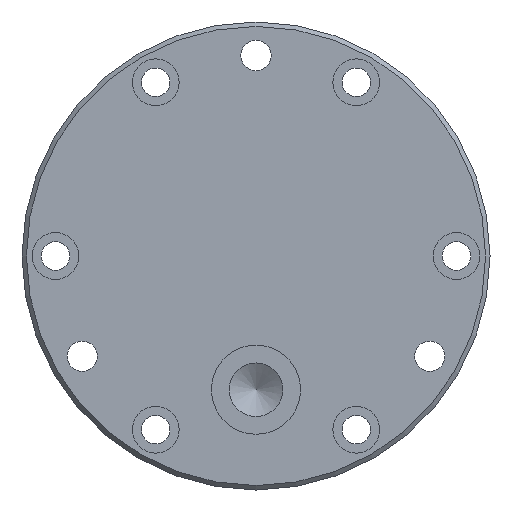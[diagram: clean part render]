
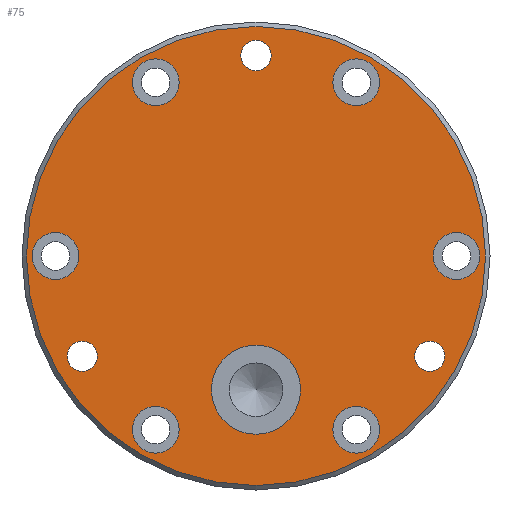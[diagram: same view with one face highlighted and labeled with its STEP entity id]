
A CAD part, left-side view. The second image highlights one B-rep face of the part: STEP entity #75.
In plain terms, the highlighted planar face has unit normal (-1, 0, 0).
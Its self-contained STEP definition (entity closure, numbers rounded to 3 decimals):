
#75 = ADVANCED_FACE( '', ( #114, #115, #116, #117, #118, #119, #120, #121, #122, #123, #124 ), #125, .T. );
#114 = FACE_BOUND( '', #245, .T. );
#115 = FACE_BOUND( '', #246, .T. );
#116 = FACE_BOUND( '', #247, .T. );
#117 = FACE_BOUND( '', #248, .T. );
#118 = FACE_BOUND( '', #249, .T. );
#119 = FACE_BOUND( '', #250, .T. );
#120 = FACE_BOUND( '', #251, .T. );
#121 = FACE_BOUND( '', #252, .T. );
#122 = FACE_BOUND( '', #253, .T. );
#123 = FACE_OUTER_BOUND( '', #254, .T. );
#124 = FACE_BOUND( '', #255, .T. );
#125 = PLANE( '', #256 );
#245 = EDGE_LOOP( '', ( #376 ) );
#246 = EDGE_LOOP( '', ( #377 ) );
#247 = EDGE_LOOP( '', ( #378 ) );
#248 = EDGE_LOOP( '', ( #379 ) );
#249 = EDGE_LOOP( '', ( #380 ) );
#250 = EDGE_LOOP( '', ( #381 ) );
#251 = EDGE_LOOP( '', ( #382 ) );
#252 = EDGE_LOOP( '', ( #383 ) );
#253 = EDGE_LOOP( '', ( #384 ) );
#254 = EDGE_LOOP( '', ( #385 ) );
#255 = EDGE_LOOP( '', ( #386 ) );
#256 = AXIS2_PLACEMENT_3D( '', #387, #388, #389 );
#376 = ORIENTED_EDGE( '', *, *, #583, .F. );
#377 = ORIENTED_EDGE( '', *, *, #584, .F. );
#378 = ORIENTED_EDGE( '', *, *, #585, .F. );
#379 = ORIENTED_EDGE( '', *, *, #586, .T. );
#380 = ORIENTED_EDGE( '', *, *, #587, .T. );
#381 = ORIENTED_EDGE( '', *, *, #588, .T. );
#382 = ORIENTED_EDGE( '', *, *, #589, .T. );
#383 = ORIENTED_EDGE( '', *, *, #590, .T. );
#384 = ORIENTED_EDGE( '', *, *, #591, .T. );
#385 = ORIENTED_EDGE( '', *, *, #592, .T. );
#386 = ORIENTED_EDGE( '', *, *, #593, .T. );
#387 = CARTESIAN_POINT( '', ( 0., 0., 0. ) );
#388 = DIRECTION( '', ( -1., 0., 0. ) );
#389 = DIRECTION( '', ( 0., 0., 1. ) );
#583 = EDGE_CURVE( '', #630, #630, #631, .T. );
#584 = EDGE_CURVE( '', #632, #632, #633, .T. );
#585 = EDGE_CURVE( '', #634, #634, #635, .T. );
#586 = EDGE_CURVE( '', #636, #636, #637, .T. );
#587 = EDGE_CURVE( '', #638, #638, #639, .T. );
#588 = EDGE_CURVE( '', #640, #640, #641, .T. );
#589 = EDGE_CURVE( '', #642, #642, #643, .T. );
#590 = EDGE_CURVE( '', #644, #644, #645, .T. );
#591 = EDGE_CURVE( '', #646, #646, #647, .T. );
#592 = EDGE_CURVE( '', #648, #648, #649, .T. );
#593 = EDGE_CURVE( '', #650, #650, #651, .T. );
#630 = VERTEX_POINT( '', #722 );
#631 = CIRCLE( '', #723, 3.4 );
#632 = VERTEX_POINT( '', #724 );
#633 = CIRCLE( '', #725, 3.4 );
#634 = VERTEX_POINT( '', #726 );
#635 = CIRCLE( '', #727, 3.4 );
#636 = VERTEX_POINT( '', #728 );
#637 = CIRCLE( '', #729, 5.25 );
#638 = VERTEX_POINT( '', #730 );
#639 = CIRCLE( '', #731, 5.25 );
#640 = VERTEX_POINT( '', #732 );
#641 = CIRCLE( '', #733, 5.25 );
#642 = VERTEX_POINT( '', #734 );
#643 = CIRCLE( '', #735, 5.25 );
#644 = VERTEX_POINT( '', #736 );
#645 = CIRCLE( '', #737, 5.25 );
#646 = VERTEX_POINT( '', #738 );
#647 = CIRCLE( '', #739, 5.25 );
#648 = VERTEX_POINT( '', #740 );
#649 = CIRCLE( '', #741, 51.5 );
#650 = VERTEX_POINT( '', #742 );
#651 = CIRCLE( '', #743, 10. );
#722 = CARTESIAN_POINT( '', ( 0., 3.4, 45. ) );
#723 = AXIS2_PLACEMENT_3D( '', #814, #815, #816 );
#724 = CARTESIAN_POINT( '', ( 0., 42.371, -22.5 ) );
#725 = AXIS2_PLACEMENT_3D( '', #817, #818, #819 );
#726 = CARTESIAN_POINT( '', ( 0., -35.571, -22.5 ) );
#727 = AXIS2_PLACEMENT_3D( '', #820, #821, #822 );
#728 = CARTESIAN_POINT( '', ( 0., -45., 5.25 ) );
#729 = AXIS2_PLACEMENT_3D( '', #823, #824, #825 );
#730 = CARTESIAN_POINT( '', ( 0., -22.5, -33.721 ) );
#731 = AXIS2_PLACEMENT_3D( '', #826, #827, #828 );
#732 = CARTESIAN_POINT( '', ( 0., 22.5, -33.721 ) );
#733 = AXIS2_PLACEMENT_3D( '', #829, #830, #831 );
#734 = CARTESIAN_POINT( '', ( 0., 45., 5.25 ) );
#735 = AXIS2_PLACEMENT_3D( '', #832, #833, #834 );
#736 = CARTESIAN_POINT( '', ( 0., 22.5, 44.221 ) );
#737 = AXIS2_PLACEMENT_3D( '', #835, #836, #837 );
#738 = CARTESIAN_POINT( '', ( 0., -22.5, 44.221 ) );
#739 = AXIS2_PLACEMENT_3D( '', #838, #839, #840 );
#740 = CARTESIAN_POINT( '', ( 0., 0., 51.5 ) );
#741 = AXIS2_PLACEMENT_3D( '', #841, #842, #843 );
#742 = CARTESIAN_POINT( '', ( 0., -10., -30. ) );
#743 = AXIS2_PLACEMENT_3D( '', #844, #845, #846 );
#814 = CARTESIAN_POINT( '', ( 0., 0., 45. ) );
#815 = DIRECTION( '', ( -1., 0., 0. ) );
#816 = DIRECTION( '', ( 0., 1., 0. ) );
#817 = CARTESIAN_POINT( '', ( 0., 38.971, -22.5 ) );
#818 = DIRECTION( '', ( -1., 0., 0. ) );
#819 = DIRECTION( '', ( 0., 1., 0. ) );
#820 = CARTESIAN_POINT( '', ( 0., -38.971, -22.5 ) );
#821 = DIRECTION( '', ( -1., 0., 0. ) );
#822 = DIRECTION( '', ( 0., 1., 0. ) );
#823 = CARTESIAN_POINT( '', ( 0., -45., 0. ) );
#824 = DIRECTION( '', ( 1., 0., 0. ) );
#825 = DIRECTION( '', ( 0., 0., 1. ) );
#826 = CARTESIAN_POINT( '', ( 0., -22.5, -38.971 ) );
#827 = DIRECTION( '', ( 1., 0., 0. ) );
#828 = DIRECTION( '', ( 0., 0., 1. ) );
#829 = CARTESIAN_POINT( '', ( 0., 22.5, -38.971 ) );
#830 = DIRECTION( '', ( 1., 0., 0. ) );
#831 = DIRECTION( '', ( 0., 0., 1. ) );
#832 = CARTESIAN_POINT( '', ( 0., 45., 0. ) );
#833 = DIRECTION( '', ( 1., 0., 0. ) );
#834 = DIRECTION( '', ( 0., 0., 1. ) );
#835 = CARTESIAN_POINT( '', ( 0., 22.5, 38.971 ) );
#836 = DIRECTION( '', ( 1., 0., 0. ) );
#837 = DIRECTION( '', ( 0., 0., 1. ) );
#838 = CARTESIAN_POINT( '', ( 0., -22.5, 38.971 ) );
#839 = DIRECTION( '', ( 1., 0., 0. ) );
#840 = DIRECTION( '', ( 0., 0., 1. ) );
#841 = CARTESIAN_POINT( '', ( 0., 0., 0. ) );
#842 = DIRECTION( '', ( -1., 0., 0. ) );
#843 = DIRECTION( '', ( 0., 0., 1. ) );
#844 = CARTESIAN_POINT( '', ( 0., 0., -30. ) );
#845 = DIRECTION( '', ( 1., 0., 0. ) );
#846 = DIRECTION( '', ( 0., -1., 0. ) );
